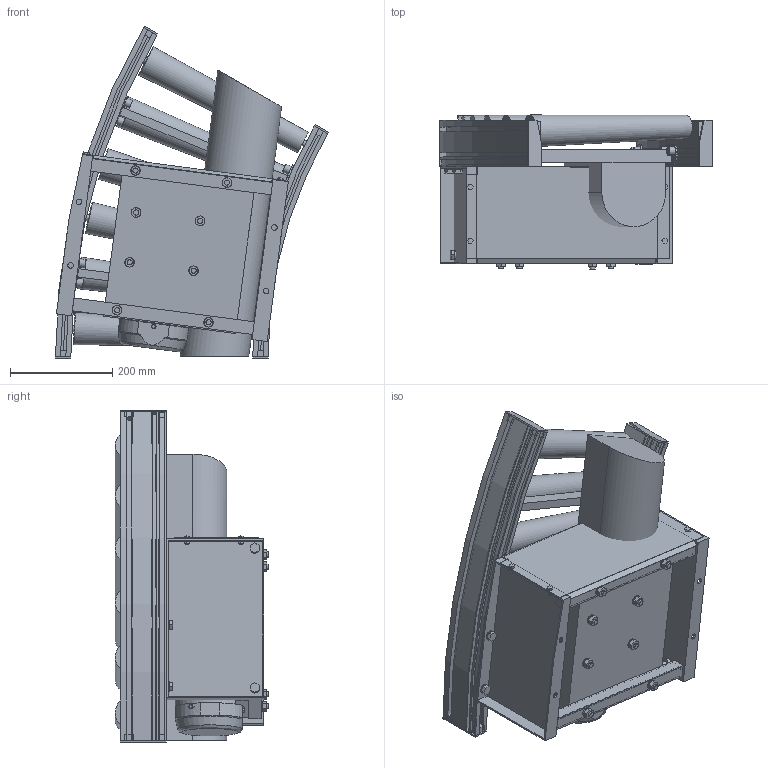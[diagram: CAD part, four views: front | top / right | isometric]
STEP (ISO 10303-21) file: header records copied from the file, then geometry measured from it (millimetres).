
FILE_DESCRIPTION( (''), '2;1');
FILE_NAME ('WEB-MCD1-50-355-100-30°-C9.stp','2026-06-19T10:49:17',(''),(''),'spGate 21.9.5 (****-****-****-****)','','');
FILE_SCHEMA (('AUTOMOTIVE_DESIGN'));
Length unit declared in the file: millimetre
Products named in the file (23): WEB-MCD1-50-355-100-30_-C9; TEMP_X_T-prt0; TEMP_X_T-prt1; TEMP_X_T-prt2; TEMP_X_T-prt3; TEMP_X_T-prt4; TEMP_X_T-prt5; TEMP_X_T-prt6; TEMP_X_T-prt7; TEMP_X_T-prt8; TEMP_X_T-prt9; TEMP_X_T-prt10; TEMP_X_T-prt11; TEMP_X_T-prt12; TEMP_X_T-prt13; TEMP_X_T-prt14; TEMP_X_T-prt15; TEMP_X_T-prt16; TEMP_X_T-prt17; TEMP_X_T-prt18; TEMP_X_T-prt19; TEMP_X_T-prt20; TEMP_X_T-prt21
Assembly tree (22 placements, depth 2):
  WEB-MCD1-50-355-100-30_-C9
    TEMP_X_T-prt0
    TEMP_X_T-prt1
    TEMP_X_T-prt2
    TEMP_X_T-prt3
    TEMP_X_T-prt4
    TEMP_X_T-prt5
    TEMP_X_T-prt6
    TEMP_X_T-prt7
    TEMP_X_T-prt8
    TEMP_X_T-prt9
    TEMP_X_T-prt10
    TEMP_X_T-prt11
    TEMP_X_T-prt12
    TEMP_X_T-prt13
    TEMP_X_T-prt14
    TEMP_X_T-prt15
    TEMP_X_T-prt16
    TEMP_X_T-prt17
    TEMP_X_T-prt18
    TEMP_X_T-prt19
    TEMP_X_T-prt20
    TEMP_X_T-prt21
Bounding box: 533.06 x 299.77 x 648.1 mm (x, y, z)
Volume: 21751005.7 mm3; surface area: 2313376.1 mm2
Topology: 22 solids, 30 shells, 1144 faces, 2744 edges, 1815 vertices
Faces by surface type: plane 868, cylinder 249, bspline 27
Full cylindrical faces by diameter (mm): 6 x9, 6.1 x4, 6.5 x8, 10 x30, 10.2 x16, 10.5 x4, 11 x29, 12 x13, 12.2 x4, 16 x8, 18.4 x16, 21 x4, 24 x1, 28 x1, 56 x1, 113.2 x1, 125 x1, 135.411 x1
Entity records: 57292 total; most frequent: CARTESIAN_POINT 6905, DIRECTION 5740, ORIENTED_EDGE 5486, COLOUR_RGB 3909, PRESENTATION_STYLE_ASSIGNMENT 3909, STYLED_ITEM 3909, EDGE_CURVE 2743, DRAUGHTING_PRE_DEFINED_CURVE_FONT 2743
